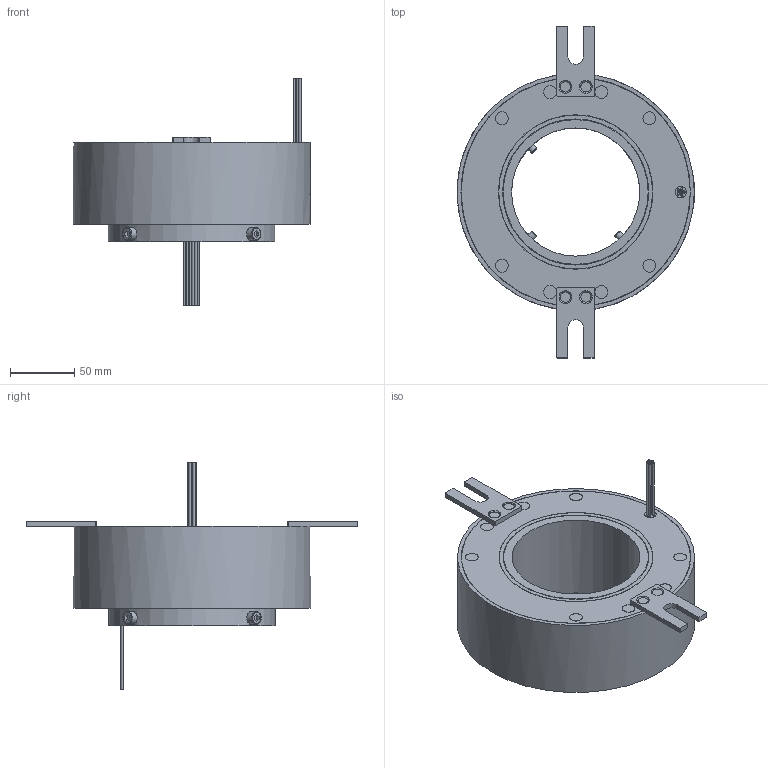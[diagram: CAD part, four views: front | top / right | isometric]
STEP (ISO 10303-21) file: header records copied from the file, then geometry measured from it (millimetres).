
FILE_DESCRIPTION(/* description */ (''),/* implementation_level */ '2;1');
FILE_NAME(/* name */ 'YD100185-0610-3D模型.stp',/* time_stamp */ '2025-09-04T17:31:36+08:00',/* author */ (''),/* organization */ (''),/* preprocessor_version */ 'ST-DEVELOPER v16.7',/* originating_system */ 'SIEMENS PLM Software NX 12.0',/* authorisation */ '');
FILE_SCHEMA (('AUTOMOTIVE_DESIGN { 1 0 10303 214 3 1 1 1 }'));
Length unit declared in the file: millimetre
Products named in the file (1): Admi8ABC6E17218r
Bounding box: 185.5 x 259 x 177.1 mm (x, y, z)
Volume: 1304509.8 mm3; surface area: 119006.4 mm2
Topology: 1 solids, 5 shells, 934 faces, 2490 edges, 1654 vertices
Faces by surface type: extrusion 479, plane 329, cylinder 77, bspline 33, cone 12, torus 4
Full cylindrical faces by diameter (mm): 1.8 x12, 4 x4, 4.5 x4, 5 x1, 6 x7, 8 x4, 9 x1, 10 x12, 100 x1, 114 x1, 120 x1, 120.5 x1, 130 x1, 178.8 x2, 179 x2, 185 x1
Entity records: 37150 total; most frequent: CARTESIAN_POINT 17669, ORIENTED_EDGE 4788, EDGE_CURVE 2394, B_SPLINE_CURVE_WITH_KNOTS 2291, DIRECTION 2187, VERTEX_POINT 1629, EDGE_LOOP 1107, ADVANCED_FACE 934
